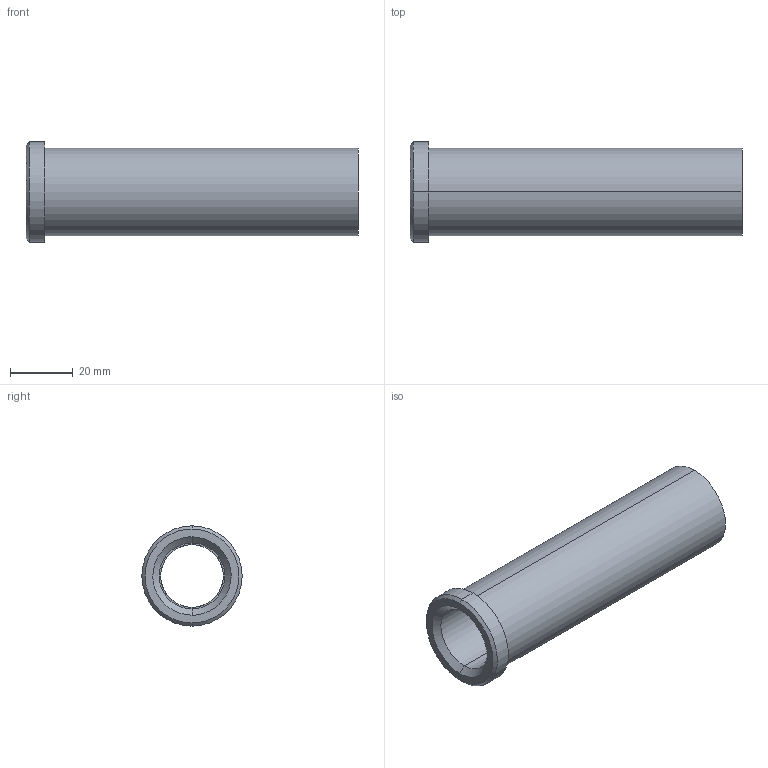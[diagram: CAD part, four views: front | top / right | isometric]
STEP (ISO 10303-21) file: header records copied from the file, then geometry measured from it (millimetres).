
FILE_DESCRIPTION(('CATIA V5 STEP Exchange'),'2;1');
FILE_NAME('C:\Users\Utente\Desktop\IO LAVORO\3D X SITO CF\X SITO\PLASTICA\353\353-20X106.stp','2021-05-08T08:52:26+00:00',('none'),('none'),'CATIA Version 5 Release 20 GA (IN-10)','CATIA V5 STEP AP203','none');
FILE_SCHEMA(('CONFIG_CONTROL_DESIGN'));
Length unit declared in the file: millimetre
Products named in the file (1): 353-20X106
Bounding box: 106 x 32 x 32 mm (x, y, z)
Volume: 30753.6 mm3; surface area: 17075.6 mm2
Topology: 1 solids, 1 shells, 18 faces, 58 edges, 44 vertices
Faces by surface type: cylinder 8, plane 4, cone 4, torus 2
Entity records: 840 total; most frequent: CARTESIAN_POINT 289, ORIENTED_EDGE 116, DIRECTION 82, EDGE_CURVE 58, AXIS2_PLACEMENT_3D 53, VERTEX_POINT 44, CIRCLE 34, EDGE_LOOP 22
